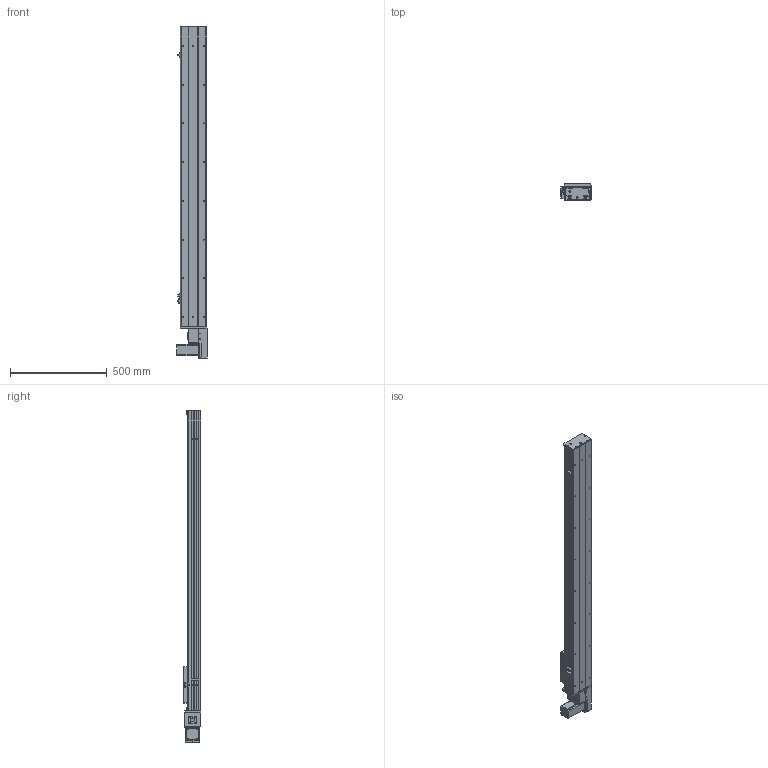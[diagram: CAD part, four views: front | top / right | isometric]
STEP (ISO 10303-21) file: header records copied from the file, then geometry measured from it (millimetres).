
FILE_DESCRIPTION (( 'STEP AP203' ), '1' );
FILE_NAME ('Y135CB-D90-S1250-BL-P400W.STEP', '2020-02-17T09:11:04', ( '微软用户' ), ( '微软中国' ), 'SwSTEP 2.0', 'SolidWorks 2017', '' );
FILE_SCHEMA (( 'CONFIG_CONTROL_DESIGN' ));
Length unit declared in the file: millimetre
Products named in the file (18): Y135CB-D90-S1250-BL-P400W; san松下电机400不带刹车----; Y135CB-耜裔; 5CB --掛极耜裔啣-; 135CB---遴掛极.-; C-詩湍揤踡え-陔; 35CB---喘謫眊楊擘啣; 135CB--詩湍-CE; Y10B--々湍喘謫眊--666; Y100-135俋离換覜ん--; Y10B-耜蚾蟀諉啣----; Y135C-陔俋离換覜結え-; Y俋欶BR----; 5C--俋欶; 0B-埴倛裔啣; 0B-源倛裔啣; C-雄赽釱--; 0B-萇儂楊擘啣
Assembly tree (21 placements, depth 2):
  Y135CB-D90-S1250-BL-P400W
    Y135CB-耜裔
    135CB---遴掛极.-
    35CB---喘謫眊楊擘啣
    Y10B--々湍喘謫眊--666
    Y10B-耜蚾蟀諉啣----
    Y俋欶BR----
    0B-埴倛裔啣
    0B-源倛裔啣
    0B-萇儂楊擘啣
    san松下电机400不带刹车----
    5CB --掛极耜裔啣-  x2
    C-詩湍揤踡え-陔  x2
    135CB--詩湍-CE
    Y100-135俋离換覜ん--  x3
    Y135C-陔俋离換覜結え-
    5C--俋欶
    C-雄赽釱--
Bounding box: 157.5 x 91 x 1714.5 mm (x, y, z)
Volume: 5036587.1 mm3; surface area: 1977930.1 mm2
Topology: 21 solids, 21 shells, 949 faces, 2545 edges, 1686 vertices
Faces by surface type: cylinder 475, plane 458, cone 16
Entity records: 29543 total; most frequent: DIRECTION 4905, CARTESIAN_POINT 4856, ORIENTED_EDGE 4566, EDGE_CURVE 2283, AXIS2_PLACEMENT_3D 1787, VERTEX_POINT 1514, VECTOR 1331, LINE 1331
